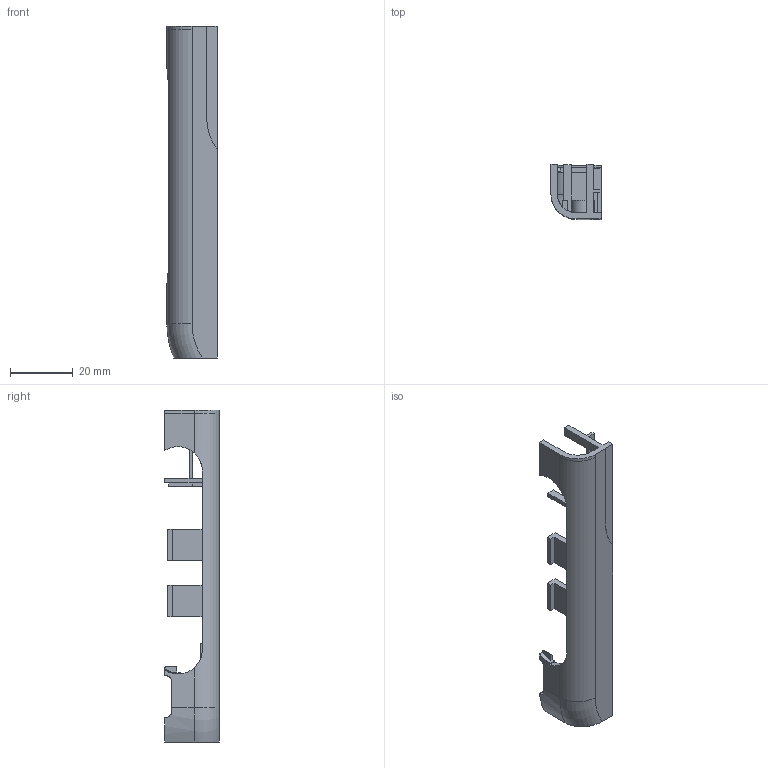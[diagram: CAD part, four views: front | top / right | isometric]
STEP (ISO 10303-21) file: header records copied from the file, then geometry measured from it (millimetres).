
FILE_DESCRIPTION(('Open CASCADE Model'),'2;1');
FILE_NAME('front_chassis_PA12','2026-09-06T11:35:11',('Author'),( 'Open CASCADE'),'Open CASCADE STEP processor 7.8','build123d', 'Unknown');
FILE_SCHEMA(('AUTOMOTIVE_DESIGN { 1 0 10303 214 1 1 1 1 }'));
Length unit declared in the file: millimetre
Products named in the file (1): front_chassis_PA12
Bounding box: 16 x 17.4 x 106 mm (x, y, z)
Volume: 5748.4 mm3; surface area: 6896.2 mm2
Topology: 1 solids, 1 shells, 117 faces, 314 edges, 205 vertices
Faces by surface type: plane 86, cylinder 25, torus 4, sphere 2
Full cylindrical faces by diameter (mm): 3.2 x2, 7.2 x2
Entity records: 8850 total; most frequent: CARTESIAN_POINT 2874, DIRECTION 1017, LINE 639, VECTOR 639, ORIENTED_EDGE 626, PCURVE 626, DEFINITIONAL_REPRESENTATION 626, EDGE_CURVE 313
